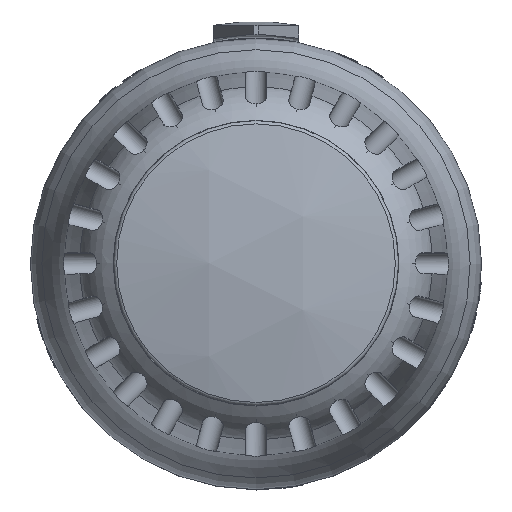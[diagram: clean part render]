
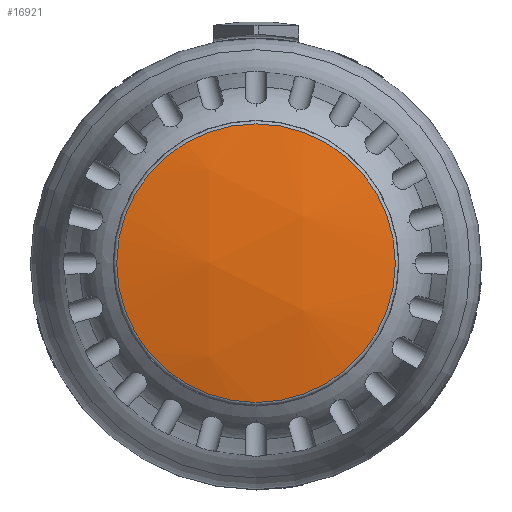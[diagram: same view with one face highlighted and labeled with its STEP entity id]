
A CAD part, top view. The second image highlights one B-rep face of the part: STEP entity #16921.
In plain terms, the highlighted spherical face has radius 71.141 mm.
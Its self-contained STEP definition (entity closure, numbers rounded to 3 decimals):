
#16905=CARTESIAN_POINT('',(-0.,0.,16.46));
#16906=DIRECTION('',(1.,0.,0.));
#16907=DIRECTION('',(-0.,1.,-0.));
#16908=AXIS2_PLACEMENT_3D('',#16905,#16906,#16907);
#16909=SPHERICAL_SURFACE('',#16908,71.141);
#16910=CARTESIAN_POINT('',(-16.365,-0.,85.693));
#16911=VERTEX_POINT('',#16910);
#16912=CARTESIAN_POINT('',(-0.,0.,85.693));
#16913=DIRECTION('',(0.,-0.,-1.));
#16914=DIRECTION('',(-1.,-0.,-0.));
#16915=AXIS2_PLACEMENT_3D('',#16912,#16913,#16914);
#16916=CIRCLE('',#16915,16.365);
#16917=EDGE_CURVE('',#16911,#16911,#16916,.T.);
#16918=ORIENTED_EDGE('',*,*,#16917,.F.);
#16919=EDGE_LOOP('',(#16918));
#16920=FACE_BOUND('',#16919,.T.);
#16921=ADVANCED_FACE('',(#16920),#16909,.T.);
